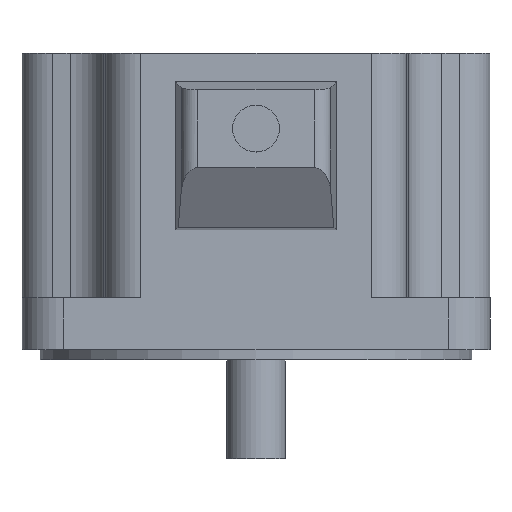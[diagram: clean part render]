
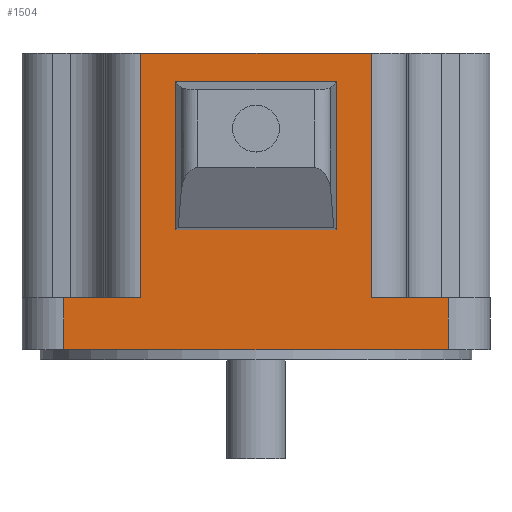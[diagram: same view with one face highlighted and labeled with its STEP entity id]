
A CAD part, front view. The second image highlights one B-rep face of the part: STEP entity #1504.
In plain terms, the highlighted planar face has unit normal (0, -1, 0).
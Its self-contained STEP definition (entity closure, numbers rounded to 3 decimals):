
#12 = EDGE_CURVE ( 'NONE', #1889, #393, #1604, .T. ) ;
#21 = EDGE_CURVE ( 'NONE', #989, #810, #1760, .T. ) ;
#24 = ORIENTED_EDGE ( 'NONE', *, *, #375, .F. ) ;
#38 = FACE_BOUND ( 'NONE', #1341, .T. ) ;
#46 = CARTESIAN_POINT ( 'NONE',  ( -45., -45., 57. ) ) ;
#61 = CARTESIAN_POINT ( 'NONE',  ( 22.14, -45., 57. ) ) ;
#115 = ORIENTED_EDGE ( 'NONE', *, *, #12, .F. ) ;
#134 = ORIENTED_EDGE ( 'NONE', *, *, #413, .F. ) ;
#135 = EDGE_CURVE ( 'NONE', #1245, #337, #188, .T. ) ;
#188 = LINE ( 'NONE', #46, #529 ) ;
#191 = CARTESIAN_POINT ( 'NONE',  ( -22.14, -45., 10. ) ) ;
#216 = ORIENTED_EDGE ( 'NONE', *, *, #1791, .F. ) ;
#265 = DIRECTION ( 'NONE',  ( 1., 0., 0. ) ) ;
#293 = LINE ( 'NONE', #1522, #1397 ) ;
#337 = VERTEX_POINT ( 'NONE', #655 ) ;
#362 = LINE ( 'NONE', #61, #1306 ) ;
#369 = VECTOR ( 'NONE', #1805, 1000. ) ;
#375 = EDGE_CURVE ( 'NONE', #810, #1902, #417, .T. ) ;
#381 = DIRECTION ( 'NONE',  ( 0., 0., 1. ) ) ;
#393 = VERTEX_POINT ( 'NONE', #1166 ) ;
#396 = CARTESIAN_POINT ( 'NONE',  ( -45., -45., 10. ) ) ;
#399 = VECTOR ( 'NONE', #381, 1000. ) ;
#411 = DIRECTION ( 'NONE',  ( 1., 0., 0. ) ) ;
#413 = EDGE_CURVE ( 'NONE', #546, #622, #716, .T. ) ;
#417 = LINE ( 'NONE', #396, #1436 ) ;
#436 = VECTOR ( 'NONE', #1313, 1000. ) ;
#454 = VERTEX_POINT ( 'NONE', #556 ) ;
#458 = EDGE_CURVE ( 'NONE', #393, #454, #1952, .T. ) ;
#467 = LINE ( 'NONE', #1199, #369 ) ;
#472 = DIRECTION ( 'NONE',  ( 0., 0., 1. ) ) ;
#509 = FACE_OUTER_BOUND ( 'NONE', #1112, .T. ) ;
#529 = VECTOR ( 'NONE', #1388, 1000. ) ;
#546 = VERTEX_POINT ( 'NONE', #923 ) ;
#556 = CARTESIAN_POINT ( 'NONE',  ( 37., -45., 0. ) ) ;
#576 = CARTESIAN_POINT ( 'NONE',  ( 15.5, -45., 10. ) ) ;
#599 = EDGE_CURVE ( 'NONE', #1663, #1200, #467, .T. ) ;
#622 = VERTEX_POINT ( 'NONE', #1862 ) ;
#641 = ORIENTED_EDGE ( 'NONE', *, *, #458, .F. ) ;
#651 = CARTESIAN_POINT ( 'NONE',  ( -45., -45., 0. ) ) ;
#655 = CARTESIAN_POINT ( 'NONE',  ( 22.14, -45., 57. ) ) ;
#702 = EDGE_CURVE ( 'NONE', #337, #1889, #362, .T. ) ;
#716 = LINE ( 'NONE', #576, #1631 ) ;
#717 = CARTESIAN_POINT ( 'NONE',  ( -37., -45., 10. ) ) ;
#729 = VECTOR ( 'NONE', #968, 1000. ) ;
#737 = ORIENTED_EDGE ( 'NONE', *, *, #1571, .F. ) ;
#810 = VERTEX_POINT ( 'NONE', #873 ) ;
#817 = CARTESIAN_POINT ( 'NONE',  ( -45., -45., 10. ) ) ;
#829 = ORIENTED_EDGE ( 'NONE', *, *, #21, .F. ) ;
#873 = CARTESIAN_POINT ( 'NONE',  ( -37., -45., 10. ) ) ;
#886 = DIRECTION ( 'NONE',  ( 0., 0., 1. ) ) ;
#923 = CARTESIAN_POINT ( 'NONE',  ( 15.5, -45., 23. ) ) ;
#931 = CARTESIAN_POINT ( 'NONE',  ( 22.14, -45., 10. ) ) ;
#968 = DIRECTION ( 'NONE',  ( 0., 0., 1. ) ) ;
#989 = VERTEX_POINT ( 'NONE', #1712 ) ;
#1016 = EDGE_CURVE ( 'NONE', #454, #989, #1880, .T. ) ;
#1057 = ORIENTED_EDGE ( 'NONE', *, *, #135, .F. ) ;
#1094 = ORIENTED_EDGE ( 'NONE', *, *, #1148, .F. ) ;
#1112 = EDGE_LOOP ( 'NONE', ( #737, #24, #829, #1362, #641, #115, #1210, #1057 ) ) ;
#1127 = CARTESIAN_POINT ( 'NONE',  ( -22.14, -45., 10. ) ) ;
#1148 = EDGE_CURVE ( 'NONE', #1200, #546, #1456, .T. ) ;
#1153 = CARTESIAN_POINT ( 'NONE',  ( -22.14, -45., 57. ) ) ;
#1166 = CARTESIAN_POINT ( 'NONE',  ( 37., -45., 10. ) ) ;
#1199 = CARTESIAN_POINT ( 'NONE',  ( -15.5, -45., 10. ) ) ;
#1200 = VERTEX_POINT ( 'NONE', #1908 ) ;
#1210 = ORIENTED_EDGE ( 'NONE', *, *, #702, .F. ) ;
#1240 = VECTOR ( 'NONE', #1907, 1000. ) ;
#1245 = VERTEX_POINT ( 'NONE', #1153 ) ;
#1273 = DIRECTION ( 'NONE',  ( 0., 1., 0. ) ) ;
#1300 = CARTESIAN_POINT ( 'NONE',  ( -45., -45., 10. ) ) ;
#1306 = VECTOR ( 'NONE', #1410, 1000. ) ;
#1313 = DIRECTION ( 'NONE',  ( 0., 0., -1. ) ) ;
#1341 = EDGE_LOOP ( 'NONE', ( #134, #1094, #1732, #216 ) ) ;
#1362 = ORIENTED_EDGE ( 'NONE', *, *, #1016, .F. ) ;
#1388 = DIRECTION ( 'NONE',  ( 1., 0., 0. ) ) ;
#1392 = PLANE ( 'NONE',  #1443 ) ;
#1397 = VECTOR ( 'NONE', #1545, 1000. ) ;
#1410 = DIRECTION ( 'NONE',  ( 0., 0., -1. ) ) ;
#1436 = VECTOR ( 'NONE', #265, 1000. ) ;
#1443 = AXIS2_PLACEMENT_3D ( 'NONE', #817, #1273, #472 ) ;
#1456 = LINE ( 'NONE', #1924, #1925 ) ;
#1466 = CARTESIAN_POINT ( 'NONE',  ( 37., -45., 10. ) ) ;
#1504 = ADVANCED_FACE ( 'NONE', ( #38, #509 ), #1392, .F. ) ;
#1522 = CARTESIAN_POINT ( 'NONE',  ( -45., -45., 51.5 ) ) ;
#1545 = DIRECTION ( 'NONE',  ( -1., 0., 0. ) ) ;
#1561 = LINE ( 'NONE', #191, #729 ) ;
#1571 = EDGE_CURVE ( 'NONE', #1902, #1245, #1561, .T. ) ;
#1604 = LINE ( 'NONE', #1300, #1240 ) ;
#1631 = VECTOR ( 'NONE', #886, 1000. ) ;
#1663 = VERTEX_POINT ( 'NONE', #1834 ) ;
#1702 = DIRECTION ( 'NONE',  ( -1., 0., 0. ) ) ;
#1712 = CARTESIAN_POINT ( 'NONE',  ( -37., -45., 0. ) ) ;
#1732 = ORIENTED_EDGE ( 'NONE', *, *, #599, .F. ) ;
#1760 = LINE ( 'NONE', #717, #399 ) ;
#1791 = EDGE_CURVE ( 'NONE', #622, #1663, #293, .T. ) ;
#1805 = DIRECTION ( 'NONE',  ( 0., 0., -1. ) ) ;
#1834 = CARTESIAN_POINT ( 'NONE',  ( -15.5, -45., 51.5 ) ) ;
#1862 = CARTESIAN_POINT ( 'NONE',  ( 15.5, -45., 51.5 ) ) ;
#1880 = LINE ( 'NONE', #651, #1914 ) ;
#1889 = VERTEX_POINT ( 'NONE', #931 ) ;
#1902 = VERTEX_POINT ( 'NONE', #1127 ) ;
#1907 = DIRECTION ( 'NONE',  ( 1., 0., 0. ) ) ;
#1908 = CARTESIAN_POINT ( 'NONE',  ( -15.5, -45., 23. ) ) ;
#1914 = VECTOR ( 'NONE', #1702, 1000. ) ;
#1924 = CARTESIAN_POINT ( 'NONE',  ( -45., -45., 23. ) ) ;
#1925 = VECTOR ( 'NONE', #411, 1000. ) ;
#1952 = LINE ( 'NONE', #1466, #436 ) ;
